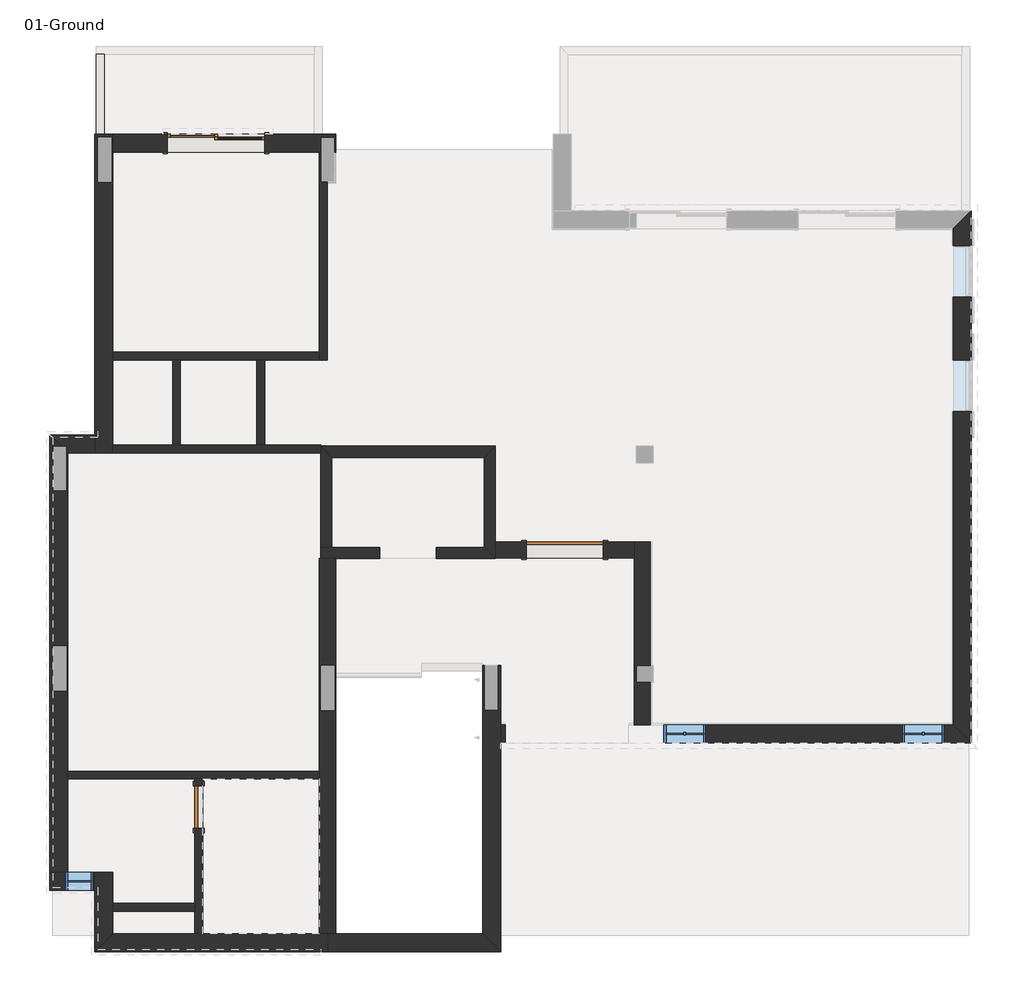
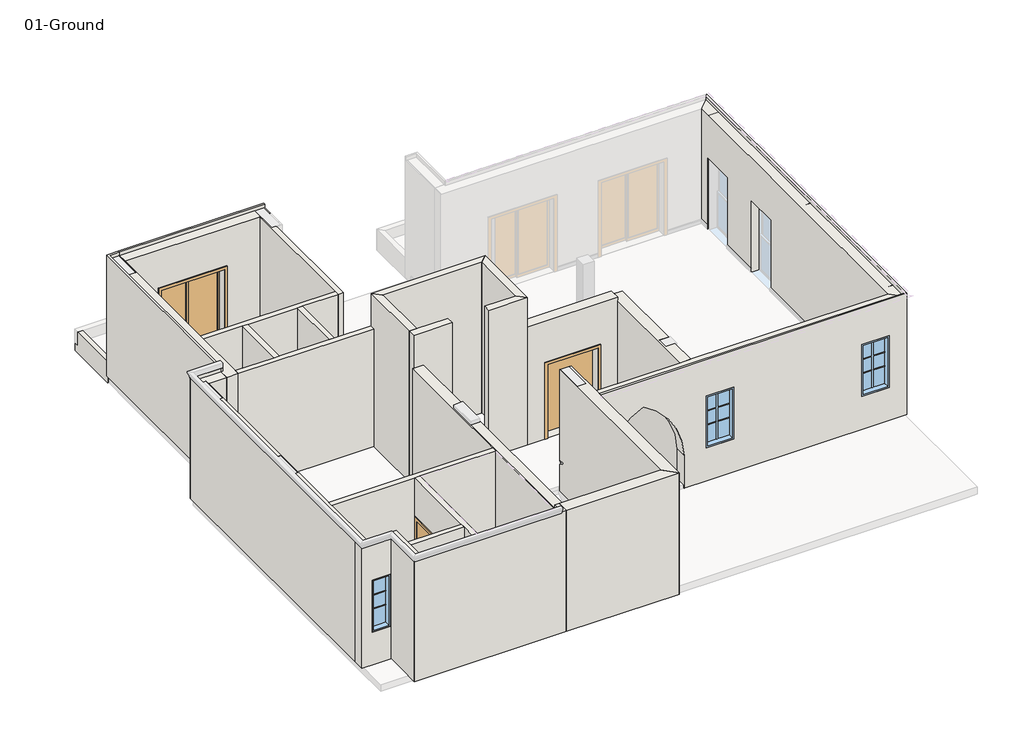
# One storey, part 1 of 3: 28 walls, 3 doors, 3 windows.
"""IFC4 building model written with IfcOpenShell, lengths in millimetres."""

from ifc_helpers import new_model, si_unit, frame, origin, origin_with_axes, place, context, project, spatial, polyline, circle_curve, outline, extrude, faceted_brep, transform, mapped, element, save
from ifc_brep_helpers import plane_surface, revolved_surface, advanced_brep
from components import m_double_uneven_1372_x_2134mm_c0331c7c, m_single_flush_0762_x_2134mm_95badebb, m_sliding_2_panel_1730_x_2134mm_74c01970, etc_window_1x3_etc_window_1x3_7aaa86aa, etc_window_2x3_etc_window_2x3_6c76f610

model = new_model("IFC4")

# Units and contexts
model_context = context("Model", 3, world=origin())
ifc_project = project(units=[si_unit("LENGTHUNIT", "METRE", prefix="MILLI")], contexts=[model_context])

# Site, building, storey
site = spatial("IfcSite", under=ifc_project)
building = spatial("IfcBuilding", under=site)
storey = spatial("IfcBuildingStorey", under=building, Name="01-Ground", Elevation=0.0)

# Doors
placement = place(None, origin())
m_double_uneven_1372_x_2134mm_shape = m_double_uneven_1372_x_2134mm_c0331c7c(model_context)
element("IfcDoor", 1, ObjectType="M_Double-Uneven : 1372 x 2134mm", at=placement, inside=storey, context=model_context, shape_type="MappedRepresentation", body=[
    mapped(m_double_uneven_1372_x_2134mm_shape, transform((-4390.2895476, -1811.1034696, 100.0), x_axis=(1.0, 0.0, 0.0), y_axis=(0.0, 1.0, 0.0), z_axis=(0.0, 0.0, 1.0))),
])
m_single_flush_0762_x_2134mm_shape = m_single_flush_0762_x_2134mm_95badebb(model_context)
element("IfcDoor", 2, ObjectType="M_Single-Flush : 0762 x 2134mm", at=placement, inside=storey, context=model_context, shape_type="MappedRepresentation", body=[
    mapped(m_single_flush_0762_x_2134mm_shape, transform((-11480.5689025, -6387.5009541, 100.0), x_axis=(0.0, 1.0, 0.0), y_axis=(-1.0, 0.0, 0.0), z_axis=(0.0, 0.0, 1.0))),
])
m_sliding_2_panel_1730_x_2134mm_shape = m_sliding_2_panel_1730_x_2134mm_74c01970(model_context)
element("IfcDoor", 3, ObjectType="M_Sliding-2 Panel : 1730 x 2134mm", at=placement, inside=storey, context=model_context, shape_type="MappedRepresentation", body=[
    mapped(m_sliding_2_panel_1730_x_2134mm_shape, transform((-11172.81349, 5296.8965304, 100.0), x_axis=(1.0, 0.0, 0.0), y_axis=(0.0, 1.0, 0.0), z_axis=(0.0, 0.0, 1.0))),
])

# Walls
element("IfcWall", 4, ObjectType="Exterior Wall 50+100+50+100 CMU", at=placement, inside=storey, context=model_context, shape_type="Brep", body=[
    faceted_brep([(-13810.5689025, -7546.5009541, 0.0), (-13810.5689025, -5886.5009541, 0.0), (-13810.5689025, -5746.5009541, 0.0), (-13810.5689025, -86.1034696, 0.0), (-13810.5689025, -86.1034696, 3400.0), (-13810.5689025, -5746.5009541, 3400.0), (-13810.5689025, -5886.5009541, 3400.0), (-13810.5689025, -7546.5009541, 3400.0), (-14130.5689025, 233.8965304, 0.0), (-14130.5689025, -7546.5009541, 0.0), (-14130.5689025, -7546.5009541, 3500.0), (-14130.5689025, 233.8965304, 3500.0), (-13930.5689025, 33.8965304, 0.0), (-14080.5689025, 33.8965304, 0.0), (-14080.5689025, -766.1034696, 0.0), (-13830.5689025, -766.1034696, 0.0), (-13830.5689025, -66.1034696, 0.0), (-13830.5689025, -4318.0271687, 0.0), (-13830.5689025, -3518.0271687, 0.0), (-14080.5689025, -3518.0271687, 0.0), (-14080.5689025, -4318.0271687, 0.0), (-14080.5689025, -7546.5009541, 3500.0), (-14080.5689025, 183.8965304, 3500.0), (-14080.5689025, 183.8965304, 3400.0), (-13930.5689025, 33.8965304, 3400.0), (-13830.5689025, -66.1034696, 3400.0), (-13830.5689025, -766.1034696, 3400.0), (-14080.5689025, -766.1034696, 3400.0), (-14080.5689025, -7546.5009541, 3400.0), (-14080.5689025, -4318.0271687, 3400.0), (-14080.5689025, -3518.0271687, 3400.0), (-14080.5689025, 33.8965304, 3400.0), (-13830.5689025, -4318.0271687, 3400.0), (-13830.5689025, -3518.0271687, 3400.0)], [[[0, 1, 2, 3, 4, 5, 6, 7]], [[8, 9, 10, 11]], [[3, 2, 1, 0, 9, 8, 12, 13, 14, 15, 16], [17, 18, 19, 20]], [[11, 10, 21, 22]], [[8, 11, 22, 23, 24, 12]], [[3, 16, 25, 4]], [[16, 15, 26, 25]], [[15, 14, 27, 26]], [[28, 29, 20, 19, 30, 27, 14, 13, 31, 23, 22, 21]], [[13, 12, 24, 31]], [[18, 17, 32, 33]], [[17, 20, 29, 32]], [[19, 18, 33, 30]], [[10, 9, 0, 7, 28, 21]], [[23, 31, 24]], [[27, 30, 33, 32, 29, 28, 7, 6, 5, 4, 25, 26]]]),
])
element("IfcWall", 5, ObjectType="Exterior Wall 50+100+50+100 CMU", at=placement, inside=storey, context=model_context, shape_type="Brep", body=[
    faceted_brep([(-13810.5689025, -86.1034696, 0.0), (-13330.5689025, -86.1034696, 0.0), (-13330.5689025, -86.1034696, 3400.0), (-13810.5689025, -86.1034696, 3400.0), (-13330.5689025, 233.8965304, 0.0), (-14130.5689025, 233.8965304, 0.0), (-14130.5689025, 233.8965304, 3500.0), (-13330.5689025, 233.8965304, 3500.0), (-13830.5689025, -66.1034696, 0.0), (-13830.5689025, 33.8965304, 0.0), (-13930.5689025, 33.8965304, 0.0), (-14080.5689025, 183.8965304, 3500.0), (-13330.5689025, 183.8965304, 3500.0), (-13930.5689025, 33.8965304, 3400.0), (-14080.5689025, 183.8965304, 3400.0), (-13830.5689025, -66.1034696, 3400.0), (-13330.5689025, 183.8965304, 3400.0), (-13830.5689025, 33.8965304, 3400.0)], [[[0, 1, 2, 3]], [[4, 5, 6, 7]], [[1, 0, 8, 9, 10, 5, 4]], [[7, 6, 11, 12]], [[6, 5, 10, 13, 14, 11]], [[0, 3, 15, 8]], [[1, 4, 7, 12, 16, 2]], [[16, 14, 13, 17, 15, 3, 2]], [[14, 16, 12, 11]], [[17, 9, 8, 15]], [[9, 17, 13, 10]]]),
])
element("IfcWall", 6, ObjectType="Exterior Wall 50+100+50+100 CMU", at=placement, inside=storey, context=model_context, shape_type="AdvancedBrep", body=[
    advanced_brep(
    [(-6107.8802351, -5241.5009541, 0.0), (-6030.644419, -5241.5009541, 0.0), (-6030.644419, -5241.5009541, 1251.5204745), (-4941.2674755, -5241.5009541, 2744.3357464), (-3823.463044, -5241.5009541, 948.0670427), (-3823.463044, -5241.5009541, 0.0), (2256.4825148, -5241.5009541, 0.0), (2256.4825148, -5241.5009541, 3500.0), (-6107.8802351, -5241.5009541, 3500.0), (-3213.7918056, -5241.5009541, 949.5956056), (-3213.7918056, -5241.5009541, 2449.5956056), (-2463.7918056, -5241.5009541, 2449.5956056), (-2463.7918056, -5241.5009541, 949.5956056), (1026.4825148, -5241.5009541, 950.0362606), (1026.4825148, -5241.5009541, 2450.0362606), (1776.4825148, -5241.5009541, 2450.0362606), (1776.4825148, -5241.5009541, 950.0362606), (-6030.644419, -4921.5009541, 0.0), (-6107.8802351, -4921.5009541, 0.0), (-6107.8802351, -4921.5009541, 3400.0), (-3740.6988602, -4921.5009541, 3400.0), (-3450.6988602, -4921.5009541, 3400.0), (1936.4825148, -4921.5009541, 3400.0), (1936.4825148, -4921.5009541, 0.0), (-3450.6988602, -4921.5009541, 0.0), (-3740.6988602, -4921.5009541, 0.0), (-3823.463044, -4921.5009541, 0.0), (-3823.463044, -4921.5009541, 948.0670427), (-4941.2674755, -4921.5009541, 2744.3357464), (-6030.644419, -4921.5009541, 1251.5204745), (-3213.7918056, -4921.5009541, 2449.5956056), (-3213.7918056, -4921.5009541, 949.5956056), (-2463.7918056, -4921.5009541, 949.5956056), (-2463.7918056, -4921.5009541, 2449.5956056), (1026.4825148, -4921.5009541, 2450.0362606), (1026.4825148, -4921.5009541, 950.0362606), (1776.4825148, -4921.5009541, 950.0362606), (1776.4825148, -4921.5009541, 2450.0362606), (2206.4825148, -5191.5009541, 3400.0), (2206.4825148, -5191.5009541, 3500.0), (-6107.8802351, -5191.5009541, 3500.0), (-6107.8802351, -5191.5009541, 3400.0)],
    [
        (0, 1),
        (1, 2),
        (2, 3, circle_curve(frame((-4149.5270944, -5241.5009541, 1022.6736323), z_axis=(0.0, 1.0, 0.0), x_axis=(-1.0, 0.0, 0.0)), 1894.9863499)),
        (3, 4, circle_curve(frame((-5960.2087097, -5241.5009541, 864.3213468), z_axis=(0.0, 1.0, 0.0), x_axis=(-1.0, 0.0, 0.0)), 2138.3861628)),
        (4, 5),
        (5, 6),
        (6, 7),
        (7, 8),
        (8, 0),
        (9, 10),
        (10, 11),
        (11, 12),
        (12, 9),
        (13, 14),
        (14, 15),
        (15, 16),
        (16, 13),
        (17, 18),
        (18, 19),
        (19, 20),
        (20, 21),
        (21, 22),
        (22, 23),
        (23, 24),
        (24, 25),
        (25, 26),
        (26, 27),
        (27, 28, circle_curve(frame((-5960.2087097, -4921.5009541, 864.3213468), z_axis=(0.0, -1.0, 0.0), x_axis=(-1.0, 0.0, 0.0)), 2138.3861628)),
        (28, 29, circle_curve(frame((-4149.5270944, -4921.5009541, 1022.6736323), z_axis=(0.0, -1.0, 0.0), x_axis=(-1.0, 0.0, 0.0)), 1894.9863499)),
        (29, 17),
        (30, 31),
        (31, 32),
        (32, 33),
        (33, 30),
        (34, 35),
        (35, 36),
        (36, 37),
        (37, 34),
        (6, 23),
        (22, 38),
        (38, 39),
        (39, 7),
        (0, 18),
        (17, 1),
        (39, 40),
        (40, 8),
        (5, 26),
        (29, 2),
        (28, 3),
        (27, 4),
        (40, 41),
        (41, 19),
        (41, 38),
        (9, 31),
        (30, 10),
        (33, 11),
        (32, 12),
        (13, 35),
        (34, 14),
        (37, 15),
        (36, 16),
    ],
    [
        plane_surface(frame((-6267.8802351, -5241.5009541, 0.0), z_axis=(0.0, -1.0, 0.0), x_axis=(1.0, 0.0, 0.0))),
        plane_surface(frame((-6267.8802351, -4921.5009541, 0.0), z_axis=(0.0, 1.0, 0.0), x_axis=(-1.0, 0.0, 0.0))),
        plane_surface(frame((2256.4825148, -5241.5009541, 0.0), z_axis=(0.7071067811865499, 0.7071067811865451, 0.0), x_axis=(-0.7071067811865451, 0.7071067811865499, 0.0))),
        plane_surface(frame((-6267.8802351, -5241.5009541, 0.0), z_axis=(0.0, 0.0, -1.0), x_axis=(0.0, 1.0, 0.0))),
        plane_surface(frame((2096.4825148, -5241.5009541, 3500.0), z_axis=(0.0, 0.0, 1.0), x_axis=(0.0, 1.0, 0.0))),
        plane_surface(frame((-3823.463044, -5241.5009541, 0.0), z_axis=(0.0, 0.0, -1.0), x_axis=(0.0, 1.0, 0.0))),
        plane_surface(frame((-6030.644419, -5241.5009541, 0.0), z_axis=(1.0, 0.0, 0.0), x_axis=(0.0, 1.0, 0.0))),
        revolved_surface(polyline([(-6044.513444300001, -4921.5009541, 1022.6736323), (-6044.513444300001, -5241.5009541, 1022.6736323)]), (-4149.5270944, -4921.5009541, 1022.6736323), (0.0, 1.0, 0.0)),
        revolved_surface(polyline([(-8098.5948725, -4921.5009541, 864.3213468), (-8098.5948725, -5241.5009541, 864.3213468)]), (-5960.2087097, -4921.5009541, 864.3213468), (0.0, 1.0, 0.0)),
        plane_surface(frame((-3823.463044, -5241.5009541, 948.0670427), z_axis=(-1.0, 0.0, 0.0), x_axis=(0.0, 1.0, 0.0))),
        plane_surface(frame((-6107.8802351, -8962.9805769, 0.0), z_axis=(-1.0, 0.0, 0.0), x_axis=(0.0, 1.0, 0.0))),
        plane_surface(frame((-4907.8802351, 5533.8965304, 3400.0), z_axis=(0.0, 0.0, 1.0), x_axis=(1.0, 0.0, 0.0))),
        plane_surface(frame((2206.4825148, -5191.5009541, 3400.0), z_axis=(0.0, 1.0, 0.0), x_axis=(0.0, 0.0, 1.0))),
        plane_surface(frame((-3213.7918056, -5241.5009541, 949.5956056), z_axis=(1.0, 0.0, 0.0), x_axis=(0.0, 1.0, 0.0))),
        plane_surface(frame((-3213.7918056, -5241.5009541, 2449.5956056), z_axis=(0.0, 0.0, -1.0), x_axis=(0.0, 1.0, 0.0))),
        plane_surface(frame((-2463.7918056, -5241.5009541, 2449.5956056), z_axis=(-1.0, 0.0, 0.0), x_axis=(0.0, 1.0, 0.0))),
        plane_surface(frame((-2463.7918056, -5241.5009541, 949.5956056), z_axis=(0.0, 0.0, 1.0), x_axis=(0.0, 1.0, 0.0))),
        plane_surface(frame((1026.4825148, -5241.5009541, 950.0362606), z_axis=(1.0, 0.0, 0.0), x_axis=(0.0, 1.0, 0.0))),
        plane_surface(frame((1026.4825148, -5241.5009541, 2450.0362606), z_axis=(0.0, 0.0, -1.0), x_axis=(0.0, 1.0, 0.0))),
        plane_surface(frame((1776.4825148, -5241.5009541, 2450.0362606), z_axis=(-1.0, 0.0, 0.0), x_axis=(0.0, 1.0, 0.0))),
        plane_surface(frame((1776.4825148, -5241.5009541, 950.0362606), z_axis=(0.0, 0.0, 1.0), x_axis=(0.0, 1.0, 0.0))),
    ],
    [
        (0, [[1, 2, 3, 4, 5, 6, 7, 8, 9], [10, 11, 12, 13], [14, 15, 16, 17]]),
        (1, [[18, 19, 20, 21, 22, 23, 24, 25, 26, 27, 28, 29, 30], [31, 32, 33, 34], [35, 36, 37, 38]]),
        (2, [[-7, 39, -23, 40, 41, 42]]),
        (3, [[-1, 43, -18, 44]]),
        (4, [[-8, -42, 45, 46]]),
        (5, [[-6, 47, -26, -25, -24, -39]]),
        (6, [[-2, -44, -30, 48]]),
        (7, [[-3, -48, -29, 49]]),
        (8, [[-4, -49, -28, 50]]),
        (9, [[-5, -50, -27, -47]]),
        (10, [[-9, -46, 51, 52, -19, -43]]),
        (11, [[53, -40, -22, -21, -20, -52]]),
        (12, [[-53, -51, -45, -41]]),
        (13, [[-10, 54, -31, 55]]),
        (14, [[-11, -55, -34, 56]]),
        (15, [[-12, -56, -33, 57]]),
        (16, [[-13, -57, -32, -54]]),
        (17, [[-14, 58, -35, 59]]),
        (18, [[-15, -59, -38, 60]]),
        (19, [[-16, -60, -37, 61]]),
        (20, [[-17, -61, -36, -58]]),
    ],
),
])
element("IfcWall", 7, ObjectType="Exterior Wall 50+100+50+100 CMU", at=placement, inside=storey, context=model_context, shape_type="Brep", body=[
    faceted_brep([(2256.4825148, -5241.5009541, 0.0), (2256.4825148, 3906.127499, 0.0), (2256.4825148, 4226.127499, 0.0), (2256.4825148, 4226.127499, 3500.0), (2256.4825148, -5241.5009541, 3500.0), (2256.4825148, 648.5862487, 70.15), (2256.4825148, 648.5862487, 2150.15), (2256.4825148, 1568.5862487, 2150.15), (2256.4825148, 1568.5862487, 70.15), (2256.4825148, 2686.127499, 70.15), (2256.4825148, 2686.127499, 2150.15), (2256.4825148, 3606.127499, 2150.15), (2256.4825148, 3606.127499, 70.15), (1936.4825148, 3906.127499, 0.0), (1936.4825148, -4921.5009541, 0.0), (1936.4825148, -4921.5009541, 3400.0), (1936.4825148, 3906.127499, 3400.0), (1936.4825148, 648.5862487, 2150.15), (1936.4825148, 648.5862487, 70.15), (1936.4825148, 1568.5862487, 70.15), (1936.4825148, 1568.5862487, 2150.15), (1936.4825148, 2686.127499, 2150.15), (1936.4825148, 2686.127499, 70.15), (1936.4825148, 3606.127499, 70.15), (1936.4825148, 3606.127499, 2150.15), (2206.4825148, 4176.127499, 3500.0), (2206.4825148, -5191.5009541, 3500.0), (2206.4825148, -5191.5009541, 3400.0), (2206.4825148, 4176.127499, 3400.0)], [[[0, 1, 2, 3, 4], [5, 6, 7, 8], [9, 10, 11, 12]], [[13, 14, 15, 16], [17, 18, 19, 20], [21, 22, 23, 24]], [[2, 1, 0, 14, 13]], [[4, 3, 25, 26]], [[0, 4, 26, 27, 15, 14]], [[2, 13, 16, 28, 25, 3]], [[27, 28, 16, 15]], [[28, 27, 26, 25]], [[18, 17, 6, 5]], [[19, 18, 5, 8]], [[20, 19, 8, 7]], [[17, 20, 7, 6]], [[22, 21, 10, 9]], [[23, 22, 9, 12]], [[24, 23, 12, 11]], [[21, 24, 11, 10]]]),
])
element("IfcWall", 8, ObjectType="Exterior Wall 50+100+50+100 CMU", at=placement, inside=storey, context=model_context, shape_type="Brep", body=[
    faceted_brep([(-13330.5689025, -7546.5009541, 0.0), (-13330.5689025, -7866.5009541, 0.0), (-13330.5689025, -8962.9805769, 0.0), (-13330.5689025, -8962.9805769, 3500.0), (-13330.5689025, -7866.5009541, 3500.0), (-13330.5689025, -7816.5009541, 3500.0), (-13330.5689025, -7816.5009541, 3400.0), (-13330.5689025, -7546.5009541, 3400.0), (-13010.5689025, -8642.9805769, 0.0), (-13010.5689025, -8236.5009541, 0.0), (-13010.5689025, -8096.5009541, 0.0), (-13010.5689025, -7546.5009541, 0.0), (-13010.5689025, -7546.5009541, 3400.0), (-13010.5689025, -8096.5009541, 3400.0), (-13010.5689025, -8236.5009541, 3400.0), (-13010.5689025, -8642.9805769, 3400.0), (-13280.5689025, -8912.9805769, 3500.0), (-13280.5689025, -7816.5009541, 3500.0), (-13280.5689025, -8912.9805769, 3400.0), (-13280.5689025, -7816.5009541, 3400.0)], [[[0, 1, 2, 3, 4, 5, 6, 7]], [[8, 9, 10, 11, 12, 13, 14, 15]], [[2, 1, 0, 11, 10, 9, 8]], [[5, 4, 3, 16, 17]], [[3, 2, 8, 15, 18, 16]], [[19, 18, 15, 14, 13, 12, 7, 6]], [[18, 19, 17, 16]], [[17, 19, 6, 5]], [[11, 0, 7, 12]]]),
])
element("IfcWall", 9, ObjectType="Exterior Wall 50+100+50+100 CMU", at=placement, inside=storey, context=model_context, shape_type="Brep", body=[
    faceted_brep([(-13330.5689025, -8962.9805769, 0.0), (-9190.0580776, -8962.9805769, 0.0), (-9190.0580776, -8962.9805769, 3500.0), (-13330.5689025, -8962.9805769, 3500.0), (-9190.0580776, -8642.9805769, 0.0), (-9335.0580776, -8642.9805769, 0.0), (-11410.5689025, -8642.9805769, 0.0), (-11550.5689025, -8642.9805769, 0.0), (-13010.5689025, -8642.9805769, 0.0), (-13010.5689025, -8642.9805769, 3400.0), (-11550.5689025, -8642.9805769, 3400.0), (-11410.5689025, -8642.9805769, 3400.0), (-9335.0580776, -8642.9805769, 3400.0), (-9315.0580776, -8642.9805769, 3400.0), (-9315.0580776, -8642.9805769, 3500.0), (-9190.0580776, -8642.9805769, 3500.0), (-9315.0580776, -8912.9805769, 3500.0), (-13280.5689025, -8912.9805769, 3500.0), (-13280.5689025, -8912.9805769, 3400.0), (-9315.0580776, -8912.9805769, 3400.0)], [[[0, 1, 2, 3]], [[4, 5, 6, 7, 8, 9, 10, 11, 12, 13, 14, 15]], [[1, 0, 8, 7, 6, 5, 4]], [[3, 2, 15, 14, 16, 17]], [[0, 3, 17, 18, 9, 8]], [[18, 19, 13, 12, 11, 10, 9]], [[19, 18, 17, 16]], [[1, 4, 15, 2]], [[19, 16, 14, 13]]]),
])
element("IfcWall", 10, ObjectType="Exterior Wall 50+100+50+100 CMU", at=placement, inside=storey, context=model_context, shape_type="Brep", body=[
    faceted_brep([(-6107.8802351, -8962.9805769, 0.0), (-6107.8802351, -5241.5009541, 0.0), (-6107.8802351, -4921.5009541, 0.0), (-6107.8802351, -3866.5009541, 0.0), (-6107.8802351, -3866.5009541, 3500.0), (-6107.8802351, -5191.5009541, 3500.0), (-6107.8802351, -5241.5009541, 3500.0), (-6107.8802351, -8962.9805769, 3500.0), (-6427.8802351, -3866.5009541, 0.0), (-6427.8802351, -8642.9805769, 0.0), (-6427.8802351, -8642.9805769, 3500.0), (-6427.8802351, -3866.5009541, 3500.0), (-6407.8802351, -3866.5009541, 0.0), (-6407.8802351, -4666.5009541, 0.0), (-6157.8802351, -4666.5009541, 0.0), (-6157.8802351, -3866.5009541, 0.0), (-6157.8802351, -3866.5009541, 3500.0), (-6407.8802351, -3866.5009541, 3500.0), (-6157.8802351, -4666.5009541, 3500.0), (-6407.8802351, -4666.5009541, 3500.0)], [[[0, 1, 2, 3, 4, 5, 6, 7]], [[8, 9, 10, 11]], [[3, 2, 1, 0, 9, 8, 12, 13, 14, 15]], [[4, 3, 15, 16]], [[8, 11, 17, 12]], [[7, 6, 5, 4, 16, 18, 19, 17, 11, 10]], [[0, 7, 10, 9]], [[14, 18, 16, 15]], [[18, 14, 13, 19]], [[19, 13, 12, 17]]]),
])
element("IfcWall", 11, ObjectType="Exterior Wall 50+100+50+100 CMU", at=placement, inside=storey, context=model_context, shape_type="Brep", body=[
    faceted_brep([(-9045.0580776, 5583.8965304, 0.0), (-9304.0265453, 5583.8965304, 0.0), (-9424.0265453, 5583.8965304, 0.0), (-13010.5689025, 5583.8965304, 0.0), (-13010.5689025, 5583.8965304, 3500.0), (-9045.0580776, 5583.8965304, 3500.0), (-12037.81349, 5583.8965304, 2234.0), (-12037.81349, 5583.8965304, 100.0), (-10307.81349, 5583.8965304, 100.0), (-10307.81349, 5583.8965304, 2234.0), (-13010.5689025, 5263.8965304, 3400.0), (-13010.5689025, 5263.8965304, 0.0), (-9315.0580776, 5263.8965304, 0.0), (-9315.0580776, 5263.8965304, 3400.0), (-12037.81349, 5263.8965304, 100.0), (-12037.81349, 5263.8965304, 2234.0), (-10307.81349, 5263.8965304, 2234.0), (-10307.81349, 5263.8965304, 100.0), (-9045.0580776, 5263.8965304, 0.0), (-9045.0580776, 5263.8965304, 3400.0), (-9065.0580776, 5263.8965304, 3400.0), (-9065.0580776, 5263.8965304, 0.0), (-9045.0580776, 5283.8965304, 0.0), (-9065.0580776, 5283.8965304, 0.0), (-9065.0580776, 5533.8965304, 0.0), (-9304.0265453, 5533.8965304, 0.0), (-9315.0580776, 5533.8965304, 0.0), (-13010.5689025, 5533.8965304, 3500.0), (-9045.0580776, 5533.8965304, 3500.0), (-9045.0580776, 5533.8965304, 3400.0), (-13010.5689025, 5533.8965304, 3400.0), (-9315.0580776, 5533.8965304, 3400.0), (-9065.0580776, 5533.8965304, 3400.0)], [[[0, 1, 2, 3, 4, 5], [6, 7, 8, 9]], [[10, 11, 12, 13], [14, 15, 16, 17]], [[18, 19, 20, 21]], [[3, 2, 1, 0, 22, 18, 21, 23, 24, 25, 26, 12, 11]], [[5, 4, 27, 28]], [[0, 5, 28, 29, 19, 18, 22]], [[3, 11, 10, 30, 27, 4]], [[30, 10, 13, 31]], [[19, 29, 32, 20]], [[27, 30, 31, 26, 25, 24, 32, 29, 28]], [[7, 6, 15, 14]], [[8, 7, 14, 17]], [[9, 8, 17, 16]], [[6, 9, 16, 15]], [[26, 31, 13, 12]], [[32, 24, 23, 21, 20]]]),
])
element("IfcWall", 12, ObjectType="Exterior Wall 50+100+50+100 CMU", at=placement, inside=storey, context=model_context, shape_type="Brep", body=[
    faceted_brep([(-13330.5689025, -7546.5009541, 0.0), (-13810.5689025, -7546.5009541, 0.0), (-14130.5689025, -7546.5009541, 0.0), (-14130.5689025, -7546.5009541, 3500.0), (-14080.5689025, -7546.5009541, 3500.0), (-14080.5689025, -7546.5009541, 3400.0), (-13810.5689025, -7546.5009541, 3400.0), (-13330.5689025, -7546.5009541, 3400.0), (-13853.3590043, -7546.5009541, 2449.9954965), (-13853.3590043, -7546.5009541, 949.9954965), (-13353.3590043, -7546.5009541, 949.9954965), (-13353.3590043, -7546.5009541, 2449.9954965), (-14130.5689025, -7866.5009541, 0.0), (-13330.5689025, -7866.5009541, 0.0), (-13330.5689025, -7866.5009541, 3500.0), (-14130.5689025, -7866.5009541, 3500.0), (-13853.3590043, -7866.5009541, 949.9954965), (-13853.3590043, -7866.5009541, 2449.9954965), (-13353.3590043, -7866.5009541, 2449.9954965), (-13353.3590043, -7866.5009541, 949.9954965), (-13330.5689025, -7816.5009541, 3500.0), (-14080.5689025, -7816.5009541, 3500.0), (-14080.5689025, -7816.5009541, 3400.0), (-13330.5689025, -7816.5009541, 3400.0)], [[[0, 1, 2, 3, 4, 5, 6, 7], [8, 9, 10, 11]], [[12, 13, 14, 15], [16, 17, 18, 19]], [[2, 1, 0, 13, 12]], [[15, 14, 20, 21, 4, 3]], [[5, 22, 23, 7, 6]], [[22, 21, 20, 23]], [[14, 13, 0, 7, 23, 20]], [[21, 22, 5, 4]], [[3, 2, 12, 15]], [[17, 16, 9, 8]], [[18, 17, 8, 11]], [[19, 18, 11, 10]], [[16, 19, 10, 9]]]),
])
element("IfcWall", 13, ObjectType="Exterior Wall 50+100+50+100 CMU", at=placement, inside=storey, context=model_context, shape_type="Brep", body=[
    faceted_brep([(-13010.5689025, -86.1034696, 0.0), (-13010.5689025, 53.8965304, 0.0), (-13010.5689025, 1563.8965304, 0.0), (-13010.5689025, 1703.8965304, 0.0), (-13010.5689025, 5263.8965304, 0.0), (-13010.5689025, 5583.8965304, 0.0), (-13010.5689025, 5583.8965304, 3500.0), (-13010.5689025, 5533.8965304, 3500.0), (-13010.5689025, 5533.8965304, 3400.0), (-13010.5689025, 5263.8965304, 3400.0), (-13010.5689025, 1703.8965304, 3400.0), (-13010.5689025, 1563.8965304, 3400.0), (-13010.5689025, 53.8965304, 3400.0), (-13010.5689025, -86.1034696, 3400.0), (-13330.5689025, 5583.8965304, 0.0), (-13330.5689025, 233.8965304, 0.0), (-13330.5689025, 183.8965304, 0.0), (-13330.5689025, -86.1034696, 0.0), (-13330.5689025, -86.1034696, 3400.0), (-13330.5689025, 183.8965304, 3400.0), (-13330.5689025, 183.8965304, 3500.0), (-13330.5689025, 233.8965304, 3500.0), (-13330.5689025, 5583.8965304, 3500.0), (-13280.5689025, 5583.8965304, 0.0), (-13160.5689025, 5583.8965304, 0.0), (-13030.5689025, 4733.8965304, 0.0), (-13030.5689025, 5533.8965304, 0.0), (-13280.5689025, 5533.8965304, 0.0), (-13280.5689025, 4733.8965304, 0.0), (-13280.5689025, 183.8965304, 3500.0), (-13280.5689025, 5533.8965304, 3500.0), (-13280.5689025, 183.8965304, 3400.0), (-13030.5689025, 5533.8965304, 3400.0), (-13030.5689025, 4733.8965304, 3400.0), (-13280.5689025, 4733.8965304, 3400.0), (-13280.5689025, 5533.8965304, 3400.0)], [[[0, 1, 2, 3, 4, 5, 6, 7, 8, 9, 10, 11, 12, 13]], [[14, 15, 16, 17, 18, 19, 20, 21, 22]], [[5, 4, 3, 2, 1, 0, 17, 16, 15, 14, 23, 24], [25, 26, 27, 28]], [[6, 22, 21, 20, 29, 30, 7]], [[5, 24, 23, 14, 22, 6]], [[17, 0, 13, 18]], [[31, 19, 18, 13, 12, 11, 10, 9, 8, 32, 33, 34]], [[27, 26, 32, 8, 7, 30, 35]], [[31, 29, 20, 19]], [[27, 35, 30, 29, 31, 34, 28]], [[32, 26, 25, 33]], [[28, 34, 33, 25]]]),
])
element("IfcWall", 14, ObjectType="Interiror Wall - 140mm Masonry with plaster", at=placement, inside=storey, context=model_context, shape_type="Brep", body=[
    faceted_brep([(-13010.5689025, -86.1034696, 0.0), (-9315.0580776, -86.1034696, 0.0), (-9315.0580776, -86.1034696, 3400.0), (-13010.5689025, -86.1034696, 3400.0), (-13010.5689025, 53.8965304, 0.0), (-13010.5689025, 53.8965304, 3400.0), (-11947.1213526, 53.8965304, 3400.0), (-11807.1213526, 53.8965304, 3400.0), (-10446.813149, 53.8965304, 3400.0), (-10306.813149, 53.8965304, 3400.0), (-9315.0580776, 53.8965304, 3400.0), (-9315.0580776, 53.8965304, 0.0), (-10306.813149, 53.8965304, 0.0), (-10446.813149, 53.8965304, 0.0), (-11807.1213526, 53.8965304, 0.0), (-11947.1213526, 53.8965304, 0.0)], [[[0, 1, 2, 3]], [[4, 5, 6, 7, 8, 9, 10, 11, 12, 13, 14, 15]], [[1, 0, 4, 15, 14, 13, 12, 11]], [[0, 3, 5, 4]], [[3, 2, 10, 9, 8, 7, 6, 5]], [[2, 1, 11, 10]]]),
])
element("IfcWall", 15, ObjectType="Interiror Wall - 140mm Masonry with plaster", at=placement, inside=storey, context=model_context, shape_type="Brep", body=[
    faceted_brep([(-9335.0580776, 5263.8965304, 0.0), (-9335.0580776, 1703.8965304, 0.0), (-9335.0580776, 1563.8965304, 0.0), (-9335.0580776, 1563.8965304, 3400.0), (-9335.0580776, 1703.8965304, 3400.0), (-9335.0580776, 5263.8965304, 3400.0), (-9195.0580776, 1563.8965304, 3400.0), (-9195.0580776, 1563.8965304, 0.0), (-9195.0580776, 4713.8965304, 0.0), (-9195.0580776, 4733.8965304, 0.0), (-9195.0580776, 4733.8965304, 3400.0), (-9195.0580776, 4713.8965304, 3400.0), (-9315.0580776, 5263.8965304, 0.0), (-9315.0580776, 4733.8965304, 0.0), (-9315.0580776, 5263.8965304, 3400.0), (-9315.0580776, 4733.8965304, 3400.0)], [[[0, 1, 2, 3, 4, 5]], [[6, 7, 8, 9, 10, 11]], [[2, 1, 0, 12, 13, 9, 8, 7]], [[0, 5, 14, 12]], [[3, 2, 7, 6]], [[5, 4, 3, 6, 11, 10, 15, 14]], [[13, 15, 10, 9]], [[15, 13, 12, 14]]]),
])
element("IfcWall", 16, ObjectType="Interiror Wall - 140mm Masonry with plaster", at=placement, inside=storey, context=model_context, shape_type="Brep", body=[
    faceted_brep([(-9335.0580776, 1703.8965304, 0.0), (-13010.5689025, 1703.8965304, 0.0), (-13010.5689025, 1703.8965304, 3400.0), (-9335.0580776, 1703.8965304, 3400.0), (-9335.0580776, 1563.8965304, 0.0), (-9335.0580776, 1563.8965304, 3400.0), (-10306.813149, 1563.8965304, 3400.0), (-10446.813149, 1563.8965304, 3400.0), (-11807.1213526, 1563.8965304, 3400.0), (-11947.1213526, 1563.8965304, 3400.0), (-13010.5689025, 1563.8965304, 3400.0), (-13010.5689025, 1563.8965304, 0.0), (-11947.1213526, 1563.8965304, 0.0), (-11807.1213526, 1563.8965304, 0.0), (-10446.813149, 1563.8965304, 0.0), (-10306.813149, 1563.8965304, 0.0)], [[[0, 1, 2, 3]], [[4, 5, 6, 7, 8, 9, 10, 11, 12, 13, 14, 15]], [[1, 0, 4, 15, 14, 13, 12, 11]], [[0, 3, 5, 4]], [[2, 1, 11, 10]], [[3, 2, 10, 9, 8, 7, 6, 5]]]),
])
element("IfcWall", 17, ObjectType="Interiror Wall - 140mm Masonry with plaster", at=placement, inside=storey, context=model_context, shape_type="SweptSolid", body=[
    extrude(outline(polyline([(-11807.1213526, 1563.8965304), (-11807.1213526, 53.8965304), (-11947.1213526, 53.8965304), (-11947.1213526, 1563.8965304), (-11807.1213526, 1563.8965304)])), origin_with_axes(), (0.0, 0.0, 1.0), 3400.0),
])
element("IfcWall", 18, ObjectType="Interiror Wall - 140mm Masonry with plaster", at=placement, inside=storey, context=model_context, shape_type="SweptSolid", body=[
    extrude(outline(polyline([(-10306.813149, 1563.8965304), (-10306.813149, 53.8965304), (-10446.813149, 53.8965304), (-10446.813149, 1563.8965304), (-10306.813149, 1563.8965304)])), origin_with_axes(), (0.0, 0.0, 1.0), 3400.0),
])
element("IfcWall", 19, ObjectType="Interiror Wall - 140mm Masonry with plaster", at=placement, inside=storey, context=model_context, shape_type="Brep", body=[
    faceted_brep([(-13810.5689025, -5886.5009541, 0.0), (-11550.5689025, -5886.5009541, 0.0), (-11410.5689025, -5886.5009541, 0.0), (-9335.0580776, -5886.5009541, 0.0), (-9335.0580776, -5886.5009541, 3400.0), (-11410.5689025, -5886.5009541, 3400.0), (-11550.5689025, -5886.5009541, 3400.0), (-13810.5689025, -5886.5009541, 3400.0), (-13810.5689025, -5746.5009541, 0.0), (-13810.5689025, -5746.5009541, 3400.0), (-9335.0580776, -5746.5009541, 3400.0), (-9335.0580776, -5746.5009541, 0.0)], [[[0, 1, 2, 3, 4, 5, 6, 7]], [[8, 9, 10, 11]], [[3, 2, 1, 0, 8, 11]], [[0, 7, 9, 8]], [[4, 3, 11, 10]], [[7, 6, 5, 4, 10, 9]]]),
])
element("IfcWall", 20, ObjectType="Interiror Wall - 140mm Masonry with plaster", at=placement, inside=storey, context=model_context, shape_type="Brep", body=[
    faceted_brep([(-11550.5689025, -5886.5009541, 0.0), (-11550.5689025, -8096.5009541, 0.0), (-11550.5689025, -8236.5009541, 0.0), (-11550.5689025, -8642.9805769, 0.0), (-11550.5689025, -8642.9805769, 3400.0), (-11550.5689025, -8236.5009541, 3400.0), (-11550.5689025, -8096.5009541, 3400.0), (-11550.5689025, -5886.5009541, 3400.0), (-11550.5689025, -6768.5009541, 100.0), (-11550.5689025, -6006.5009541, 100.0), (-11550.5689025, -6006.5009541, 2234.0), (-11550.5689025, -6768.5009541, 2234.0), (-11410.5689025, -5886.5009541, 0.0), (-11410.5689025, -5886.5009541, 3400.0), (-11410.5689025, -8642.9805769, 3400.0), (-11410.5689025, -8642.9805769, 0.0), (-11410.5689025, -6768.5009541, 100.0), (-11410.5689025, -6768.5009541, 2234.0), (-11410.5689025, -6006.5009541, 2234.0), (-11410.5689025, -6006.5009541, 100.0)], [[[0, 1, 2, 3, 4, 5, 6, 7], [8, 9, 10, 11]], [[12, 13, 14, 15], [16, 17, 18, 19]], [[3, 2, 1, 0, 12, 15]], [[4, 3, 15, 14]], [[0, 7, 13, 12]], [[7, 6, 5, 4, 14, 13]], [[9, 8, 16, 19]], [[10, 9, 19, 18]], [[11, 10, 18, 17]], [[8, 11, 17, 16]]]),
])
element("IfcWall", 21, ObjectType="Interiror Wall - 140mm Masonry with plaster", at=placement, inside=storey, context=model_context, shape_type="SweptSolid", body=[
    extrude(outline(polyline([(-13010.5689025, -8096.5009541), (-11550.5689025, -8096.5009541), (-11550.5689025, -8236.5009541), (-13010.5689025, -8236.5009541), (-13010.5689025, -8096.5009541)])), origin_with_axes(), (0.0, 0.0, 1.0), 3400.0),
])
element("IfcWall", 22, ObjectType="Exterior Wall 50+100+50+100 CMU", at=placement, inside=storey, context=model_context, shape_type="Brep", body=[
    faceted_brep([(-9190.0580776, -8962.9805769, 3500.0), (-9190.0580776, -8962.9805769, 0.0), (-6107.8802351, -8962.9805769, 0.0), (-6107.8802351, -8962.9805769, 3500.0), (-9190.0580776, -8642.9805769, 0.0), (-9190.0580776, -8642.9805769, 3500.0), (-6427.8802351, -8642.9805769, 3500.0), (-6427.8802351, -8642.9805769, 0.0), (-9045.0580776, -8642.9805769, 0.0)], [[[0, 1, 2, 3]], [[4, 5, 6, 7, 8]], [[2, 1, 4, 8, 7]], [[0, 3, 6, 5]], [[3, 2, 7, 6]], [[0, 5, 4, 1]]]),
])
element("IfcWall", 23, ObjectType="Balcony Parapet- 140mm Masonry", at=placement, inside=storey, context=model_context, shape_type="Brep", body=[
    faceted_brep([(-13300.5689025, 5583.8965304, 400.0), (-13300.5689025, 7003.8965304, 400.0), (-13300.5689025, 7003.8965304, 0.0), (-13300.5689025, 7123.8965304, 0.0), (-13300.5689025, 7123.8965304, -200.0), (-13300.5689025, 5583.8965304, -200.0), (-13160.5689025, 5583.8965304, 0.0), (-13160.5689025, 7003.8965304, 0.0), (-13160.5689025, 7003.8965304, 400.0), (-13160.5689025, 5583.8965304, 400.0), (-13280.5689025, 5583.8965304, 0.0), (-13280.5689025, 7003.8965304, 0.0), (-13280.5689025, 5583.8965304, -200.0), (-13280.5689025, 7123.8965304, -200.0), (-13280.5689025, 7123.8965304, 0.0)], [[[0, 1, 2, 3, 4, 5]], [[6, 7, 8, 9]], [[1, 0, 9, 8]], [[7, 6, 10, 11]], [[11, 10, 12, 13, 14]], [[5, 4, 13, 12]], [[1, 8, 7, 11, 2]], [[0, 5, 12, 10, 6, 9]], [[3, 2, 11, 14]], [[13, 4, 3, 14]]]),
])
element("IfcWall", 24, ObjectType="Exterior Wall 100+50+100 CMU", at=placement, inside=storey, context=model_context, shape_type="Brep", body=[
    faceted_brep([(-9045.0580776, -8642.9805769, 0.0), (-9045.0580776, -1965.2824965, 0.0), (-9045.0580776, -1965.2824965, 3400.0), (-9045.0580776, -3866.5009541, 3400.0), (-9045.0580776, -8642.9805769, 3400.0), (-9335.0580776, -1965.2824965, 0.0), (-9335.0580776, -5746.5009541, 0.0), (-9335.0580776, -5886.5009541, 0.0), (-9335.0580776, -8642.9805769, 0.0), (-9335.0580776, -8642.9805769, 3400.0), (-9335.0580776, -5886.5009541, 3400.0), (-9335.0580776, -5746.5009541, 3400.0), (-9335.0580776, -3866.5009541, 3400.0), (-9335.0580776, -1965.2824965, 3400.0), (-9190.0580776, -8642.9805769, 0.0), (-9065.0580776, -4666.5009541, 0.0), (-9065.0580776, -3866.5009541, 0.0), (-9315.0580776, -3866.5009541, 0.0), (-9315.0580776, -4666.5009541, 0.0), (-9315.0580776, -8642.9805769, 3400.0), (-9315.0580776, -4666.5009541, 3400.0), (-9315.0580776, -3866.5009541, 3400.0), (-9065.0580776, -3866.5009541, 3400.0), (-9065.0580776, -4666.5009541, 3400.0)], [[[0, 1, 2, 3, 4]], [[5, 6, 7, 8, 9, 10, 11, 12, 13]], [[1, 0, 14, 8, 7, 6, 5], [15, 16, 17, 18]], [[3, 2, 13, 12, 11, 10, 9, 19, 20, 21, 22]], [[4, 3, 22, 23, 20, 19]], [[0, 4, 19, 9, 8, 14]], [[22, 16, 15, 23]], [[18, 20, 23, 15]], [[20, 18, 17, 21]], [[21, 17, 16, 22]], [[2, 1, 5, 13]]]),
])
element("IfcWall", 25, ObjectType="Exterior Wall 100+50+100 CMU", at=placement, inside=storey, context=model_context, shape_type="Brep", body=[
    faceted_brep([(-3450.6988602, -4921.5009541, 3400.0), (-3450.6988602, -4921.5009541, 0.0), (-3450.6988602, -4166.5009541, 0.0), (-3450.6988602, -4166.5009541, 3400.0), (-3450.6988602, -1666.1034696, 0.0), (-3450.6988602, -1666.1034696, 3400.0), (-3450.6988602, -3866.5009541, 3400.0), (-3450.6988602, -3866.5009541, 0.0), (-3740.6988602, -1666.1034696, 0.0), (-3740.6988602, -1956.1034696, 0.0), (-3740.6988602, -4921.5009541, 0.0), (-3740.6988602, -4921.5009541, 3400.0), (-3740.6988602, -1666.1034696, 3400.0), (-3700.6988602, -3866.5009541, 0.0), (-3700.6988602, -4166.5009541, 0.0), (-3700.6988602, -4166.5009541, 3400.0), (-3700.6988602, -3866.5009541, 3400.0)], [[[0, 1, 2, 3]], [[4, 5, 6, 7]], [[8, 9, 10, 11, 12]], [[10, 9, 8, 4, 7, 13, 14, 2, 1]], [[1, 0, 11, 10]], [[12, 11, 0, 3, 15, 16, 6, 5]], [[14, 15, 3, 2]], [[15, 14, 13, 16]], [[16, 13, 7, 6]], [[5, 4, 8, 12]]]),
])
element("IfcWall", 26, ObjectType="Exterior Wall 100+50+100 CMU", at=placement, inside=storey, context=model_context, shape_type="Brep", body=[
    faceted_brep([(-3740.6988602, -1666.1034696, 0.0), (-6207.8802351, -1666.1034696, 0.0), (-6207.8802351, -1666.1034696, 3500.0), (-3740.6988602, -1666.1034696, 3500.0), (-3740.6988602, -1666.1034696, 3400.0), (-4288.2895476, -1666.1034696, 100.0), (-4288.2895476, -1666.1034696, 2234.0), (-5660.2895476, -1666.1034696, 2234.0), (-5660.2895476, -1666.1034696, 100.0), (-6207.8802351, -1956.1034696, 0.0), (-3740.6988602, -1956.1034696, 0.0), (-3740.6988602, -1956.1034696, 3500.0), (-6207.8802351, -1956.1034696, 3500.0), (-4288.2895476, -1956.1034696, 2234.0), (-4288.2895476, -1956.1034696, 100.0), (-5660.2895476, -1956.1034696, 100.0), (-5660.2895476, -1956.1034696, 2234.0)], [[[0, 1, 2, 3, 4], [5, 6, 7, 8]], [[9, 10, 11, 12], [13, 14, 15, 16]], [[1, 0, 10, 9]], [[3, 2, 12, 11]], [[0, 4, 3, 11, 10]], [[5, 14, 13, 6]], [[6, 13, 16, 7]], [[7, 16, 15, 8]], [[14, 5, 8, 15]], [[2, 1, 9, 12]]]),
])
element("IfcWall", 27, ObjectType="Generic - 200mm - Filled", at=placement, inside=storey, context=model_context, shape_type="Brep", body=[
    faceted_brep([(-8260.3697638, -1765.2824965, 0.0), (-9115.0580776, -1765.2824965, 0.0), (-9315.0580776, -1765.2824965, 0.0), (-9315.0580776, -1765.2824965, 4350.0), (-9115.0580776, -1765.2824965, 4350.0), (-8260.3697638, -1765.2824965, 4350.0), (-8260.3697638, -1965.2824965, 0.0), (-8260.3697638, -1965.2824965, 4350.0), (-9315.0580776, -1965.2824965, 4350.0), (-9315.0580776, -1965.2824965, 0.0)], [[[0, 1, 2, 3, 4, 5]], [[6, 7, 8, 9]], [[2, 1, 0, 6, 9]], [[5, 4, 3, 8, 7]], [[0, 5, 7, 6]], [[2, 9, 8, 3]]]),
])
element("IfcWall", 28, ObjectType="Generic - 200mm - Filled", at=placement, inside=storey, context=model_context, shape_type="SweptSolid", body=[
    extrude(outline(polyline([(-9115.0580776, -166.1034696), (-9115.0580776, -1765.2824965), (-9315.0580776, -1765.2824965), (-9315.0580776, 33.8965304), (-9115.0580776, -166.1034696)])), origin_with_axes(), (0.0, 0.0, 1.0), 4350.0),
])
element("IfcWall", 29, ObjectType="Generic - 200mm - Filled", at=placement, inside=storey, context=model_context, shape_type="SweptSolid", body=[
    extrude(outline(polyline([(-6407.8802351, -166.1034696), (-9115.0580776, -166.1034696), (-9315.0580776, 33.8965304), (-6207.8802351, 33.8965304), (-6407.8802351, -166.1034696)])), origin_with_axes(), (0.0, 0.0, 1.0), 4350.0),
])
element("IfcWall", 30, ObjectType="Generic - 200mm - Filled", at=placement, inside=storey, context=model_context, shape_type="SweptSolid", body=[
    extrude(outline(polyline([(-6407.8802351, -1766.1034696), (-6407.8802351, -166.1034696), (-6207.8802351, 33.8965304), (-6207.8802351, -1966.1034696), (-6407.8802351, -1766.1034696)])), origin_with_axes(), (0.0, 0.0, 1.0), 4350.0),
])
element("IfcWall", 31, ObjectType="Generic - 200mm - Filled", at=placement, inside=storey, context=model_context, shape_type="SweptSolid", body=[
    extrude(outline(polyline([(-7262.5006886, -1766.1034696), (-6407.8802351, -1766.1034696), (-6207.8802351, -1966.1034696), (-7262.5006886, -1966.1034696), (-7262.5006886, -1766.1034696)])), origin_with_axes(), (0.0, 0.0, 1.0), 4350.0),
])

# Windows
etc_window_1x3_etc_window_1x3_shape = etc_window_1x3_etc_window_1x3_7aaa86aa(model_context)
element("IfcWindow", 32, ObjectType="ETC Window 1x3 : ETC Window 1x3", at=placement, inside=storey, context=model_context, shape_type="MappedRepresentation", body=[
    mapped(etc_window_1x3_etc_window_1x3_shape, transform((-13603.3590043, -7706.5009541, 149.9954965), x_axis=(1.0, 0.0, 0.0), y_axis=(0.0, 1.0, 0.0), z_axis=(0.0, 0.0, 1.0))),
])
etc_window_2x3_etc_window_2x3_shape = etc_window_2x3_etc_window_2x3_6c76f610(model_context)
element("IfcWindow", 33, ObjectType="ETC Window 2x3 : ETC Window 2x3", at=placement, inside=storey, context=model_context, shape_type="MappedRepresentation", body=[
    mapped(etc_window_2x3_etc_window_2x3_shape, transform((-2838.7918056, -5081.5009541, 149.5956056), x_axis=(1.0, 0.0, 0.0), y_axis=(0.0, 1.0, 0.0), z_axis=(0.0, 0.0, 1.0))),
])
element("IfcWindow", 34, ObjectType="ETC Window 2x3 : ETC Window 2x3", at=placement, inside=storey, context=model_context, shape_type="MappedRepresentation", body=[
    mapped(etc_window_2x3_etc_window_2x3_shape, transform((1401.4825148, -5081.5009541, 150.0362606), x_axis=(1.0, 0.0, 0.0), y_axis=(0.0, 1.0, 0.0), z_axis=(0.0, 0.0, 1.0))),
])

save(model, "model.ifc")
